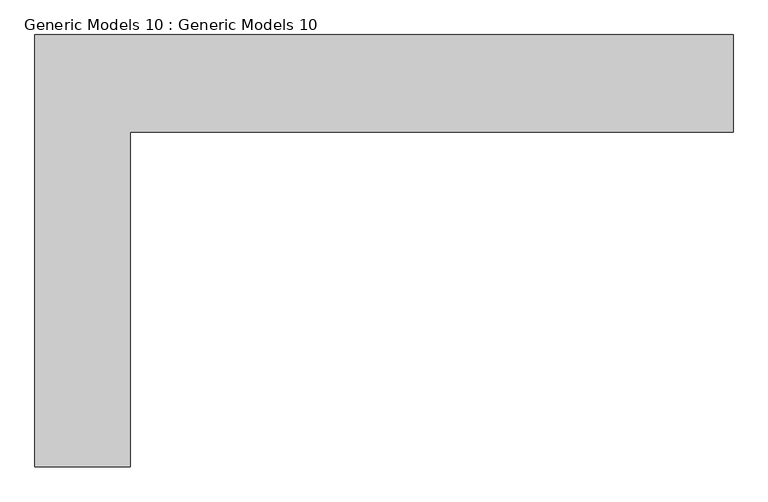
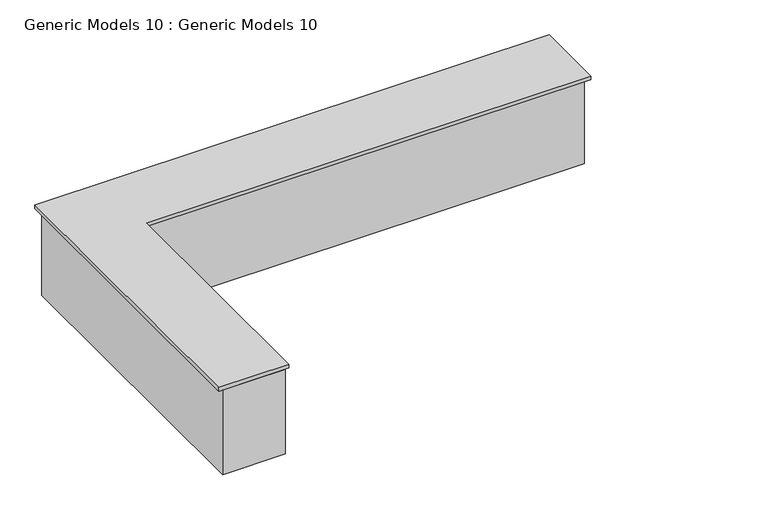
"""IFC4 building model written with IfcOpenShell, lengths in millimetres: proxy geometry, Generic Models 10 : Generic Models 10."""

from ifc_helpers import new_model, si_unit, origin, origin_with_axes, place, context, project, spatial, polyline, outline, extrude, faceted_brep, source, transform, mapped, element, save


def generic_models_10_generic_models_10_cc43dea1(model_context):
    return source(origin(), model_context, "Body", "SolidModel", [
        faceted_brep([(17395.3362243, -8151.3561394, 1200.0), (10795.3362243, -8151.3561394, 1200.0), (10795.3362243, -12238.6644727, 1200.0), (11695.3362243, -12238.6644727, 1200.0), (11695.3362243, -9071.3561394, 1200.0), (17395.3362243, -9071.3561394, 1200.0), (17395.3362243, -8151.3561394, 1150.0), (17395.3362243, -9071.3561394, 1150.0), (11695.3362243, -9071.3561394, 1150.0), (11695.3362243, -12238.6644727, 1150.0), (10795.3362243, -12238.6644727, 1150.0), (10795.3362243, -8151.3561394, 1150.0), (10805.3362243, -8161.3561394, 1150.0), (10805.3362243, -12228.6644727, 1150.0), (10835.3362243, -12228.6644727, 1150.0), (10835.3362243, -8191.3561394, 1150.0), (17385.3362243, -8191.3561394, 1150.0), (17385.3362243, -8161.3561394, 1150.0), (10805.3362243, -8161.3561394, 1155.0), (17385.3362243, -8161.3561394, 1155.0), (17385.3362243, -8191.3561394, 1155.0), (10835.3362243, -8191.3561394, 1155.0), (10835.3362243, -12228.6644727, 1155.0), (10805.3362243, -12228.6644727, 1155.0)], [[[0, 1, 2, 3, 4, 5]], [[6, 7, 8, 9, 10, 11], [12, 13, 14, 15, 16, 17]], [[1, 0, 6, 11]], [[2, 1, 11, 10]], [[3, 2, 10, 9]], [[4, 3, 9, 8]], [[5, 4, 8, 7]], [[0, 5, 7, 6]], [[18, 19, 20, 21, 22, 23]], [[18, 23, 13, 12]], [[23, 22, 14, 13]], [[22, 21, 15, 14]], [[21, 20, 16, 15]], [[20, 19, 17, 16]], [[19, 18, 12, 17]]]),
        extrude(outline(polyline([(10845.3362243, -8221.3561394), (17345.3362243, -8221.3561394), (17345.3362243, -9021.3561394), (11645.3362243, -9021.3561394), (11645.3362243, -12238.6644727), (10845.3362243, -12238.6644727), (10845.3362243, -8221.3561394)])), origin_with_axes(), (0.0, 0.0, 1.0), 1150.0),
    ])


if __name__ == "__main__":
    model = new_model("IFC4")
    model_context = context("Model", 3, world=origin())
    ifc_project = project(units=[si_unit("LENGTHUNIT", "METRE", prefix="MILLI")], contexts=[model_context])
    site = spatial("IfcSite", under=ifc_project)
    building = spatial("IfcBuilding", under=site)
    placement = place(None, origin())
    generic_models_10_generic_models_10_shape = generic_models_10_generic_models_10_cc43dea1(model_context)
    element("IfcBuildingElementProxy", 1, Name="Generic Models 10 : Generic Models 10", ObjectType="Generic Models 10 : Generic Models 10", at=placement, inside=building, context=model_context, shape_type="MappedRepresentation", body=[
        mapped(generic_models_10_generic_models_10_shape, transform((0.0, 0.0, 0.0), x_axis=(1.0, 0.0, 0.0), y_axis=(0.0, 1.0, 0.0), z_axis=(0.0, 0.0, 1.0))),
    ])
    save(model, "model.ifc")
